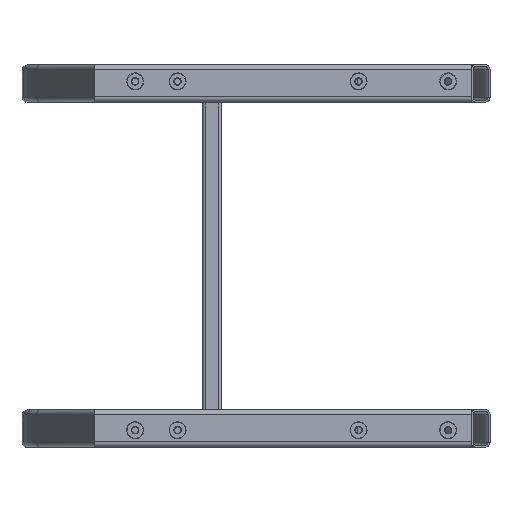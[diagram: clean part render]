
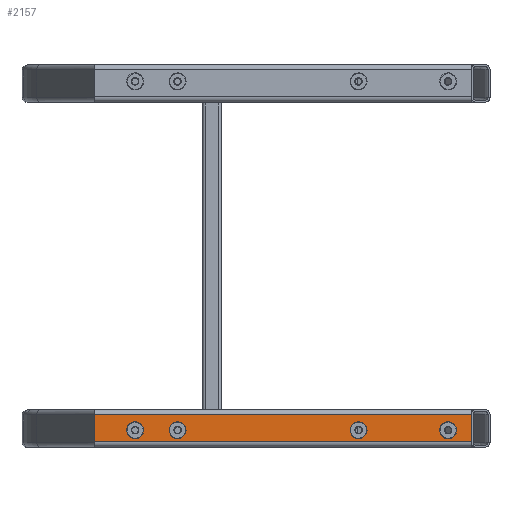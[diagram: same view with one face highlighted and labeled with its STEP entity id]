
A CAD part, top view. The second image highlights one B-rep face of the part: STEP entity #2157.
In plain terms, the highlighted planar face has unit normal (0, 0, 1).
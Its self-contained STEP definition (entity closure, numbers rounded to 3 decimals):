
#1976=CARTESIAN_POINT('Control Point',(927.324,196.,424.395)) ;
#1977=CARTESIAN_POINT('Control Point',(927.324,195.019,424.395)) ;
#1978=CARTESIAN_POINT('Control Point',(927.517,194.037,424.395)) ;
#1979=CARTESIAN_POINT('Control Point',(927.902,193.106,424.395)) ;
#1980=CARTESIAN_POINT('Control Point',(929.018,191.445,424.395)) ;
#1981=CARTESIAN_POINT('Control Point',(930.679,190.329,424.395)) ;
#1982=CARTESIAN_POINT('Control Point',(931.61,189.943,424.395)) ;
#1983=CARTESIAN_POINT('Control Point',(933.574,189.558,424.395)) ;
#1984=CARTESIAN_POINT('Control Point',(935.537,189.943,424.395)) ;
#1985=CARTESIAN_POINT('Control Point',(936.469,190.329,424.395)) ;
#1986=CARTESIAN_POINT('Control Point',(938.13,191.445,424.395)) ;
#1987=CARTESIAN_POINT('Control Point',(939.245,193.106,424.395)) ;
#1988=CARTESIAN_POINT('Control Point',(939.631,194.037,424.395)) ;
#1989=CARTESIAN_POINT('Control Point',(939.824,195.019,424.395)) ;
#1990=CARTESIAN_POINT('Control Point',(939.824,196.,424.395)) ;
#1991=CARTESIAN_POINT('Vertex',(927.324,196.,424.395)) ;
#1993=CARTESIAN_POINT('Vertex',(939.824,196.,424.395)) ;
#2034=CARTESIAN_POINT('Axis2P3D Location',(845.,198.,424.395)) ;
#2039=CARTESIAN_POINT('Line Origine',(1045.,212.5,424.395)) ;
#2043=CARTESIAN_POINT('Vertex',(1245.,212.5,424.395)) ;
#2045=CARTESIAN_POINT('Vertex',(845.,212.5,424.395)) ;
#2048=CARTESIAN_POINT('Line Origine',(845.,198.,424.395)) ;
#2052=CARTESIAN_POINT('Vertex',(845.,183.5,424.395)) ;
#2055=CARTESIAN_POINT('Line Origine',(1045.,183.5,424.395)) ;
#2059=CARTESIAN_POINT('Vertex',(1245.,183.5,424.395)) ;
#2062=CARTESIAN_POINT('Line Origine',(1245.,198.,424.395)) ;
#2073=CARTESIAN_POINT('Axis2P3D Location',(888.574,196.,424.395)) ;
#2077=CARTESIAN_POINT('Vertex',(882.324,195.99,424.395)) ;
#2079=CARTESIAN_POINT('Vertex',(894.824,196.01,424.395)) ;
#2082=CARTESIAN_POINT('Axis2P3D Location',(888.574,196.,424.395)) ;
#2091=CARTESIAN_POINT('Axis2P3D Location',(1125.574,196.,424.395)) ;
#2095=CARTESIAN_POINT('Vertex',(1119.324,196.,424.395)) ;
#2097=CARTESIAN_POINT('Vertex',(1131.824,196.,424.395)) ;
#2100=CARTESIAN_POINT('Axis2P3D Location',(1125.574,196.,424.395)) ;
#2109=CARTESIAN_POINT('Axis2P3D Location',(1220.574,196.,424.395)) ;
#2113=CARTESIAN_POINT('Vertex',(1214.324,195.99,424.395)) ;
#2115=CARTESIAN_POINT('Vertex',(1226.824,196.01,424.395)) ;
#2118=CARTESIAN_POINT('Axis2P3D Location',(1220.574,196.,424.395)) ;
#2128=CARTESIAN_POINT('Control Point',(939.824,196.,424.395)) ;
#2129=CARTESIAN_POINT('Control Point',(939.824,196.613,424.395)) ;
#2130=CARTESIAN_POINT('Control Point',(939.749,197.225,424.395)) ;
#2131=CARTESIAN_POINT('Control Point',(939.599,197.825,424.395)) ;
#2132=CARTESIAN_POINT('Control Point',(939.155,198.976,424.395)) ;
#2133=CARTESIAN_POINT('Control Point',(938.446,199.986,424.395)) ;
#2134=CARTESIAN_POINT('Control Point',(938.032,200.445,424.395)) ;
#2135=CARTESIAN_POINT('Control Point',(937.098,201.252,424.395)) ;
#2136=CARTESIAN_POINT('Control Point',(935.998,201.81,424.395)) ;
#2137=CARTESIAN_POINT('Control Point',(935.416,202.02,424.395)) ;
#2138=CARTESIAN_POINT('Control Point',(934.212,202.293,424.395)) ;
#2139=CARTESIAN_POINT('Control Point',(932.979,202.267,424.395)) ;
#2140=CARTESIAN_POINT('Control Point',(932.367,202.179,424.395)) ;
#2141=CARTESIAN_POINT('Control Point',(931.176,201.853,424.395)) ;
#2142=CARTESIAN_POINT('Control Point',(930.1,201.25,424.395)) ;
#2143=CARTESIAN_POINT('Control Point',(929.602,200.884,424.395)) ;
#2144=CARTESIAN_POINT('Control Point',(928.704,200.037,424.395)) ;
#2145=CARTESIAN_POINT('Control Point',(928.038,198.998,424.395)) ;
#2146=CARTESIAN_POINT('Control Point',(927.771,198.441,424.395)) ;
#2147=CARTESIAN_POINT('Control Point',(927.493,197.614,424.395)) ;
#2148=CARTESIAN_POINT('Control Point',(927.362,196.758,424.395)) ;
#2149=CARTESIAN_POINT('Control Point',(927.337,196.506,424.395)) ;
#2150=CARTESIAN_POINT('Control Point',(927.324,196.253,424.395)) ;
#2151=CARTESIAN_POINT('Control Point',(927.324,196.,424.395)) ;
#2035=DIRECTION('Axis2P3D Direction',(-0.,0.,1.)) ;
#2036=DIRECTION('Axis2P3D XDirection',(1.,0.,0.)) ;
#2040=DIRECTION('Vector Direction',(1.,0.,0.)) ;
#2049=DIRECTION('Vector Direction',(0.,1.,0.)) ;
#2056=DIRECTION('Vector Direction',(1.,0.,0.)) ;
#2063=DIRECTION('Vector Direction',(0.,-1.,0.)) ;
#2074=DIRECTION('Axis2P3D Direction',(-0.,0.,1.)) ;
#2083=DIRECTION('Axis2P3D Direction',(-0.,0.,1.)) ;
#2092=DIRECTION('Axis2P3D Direction',(-0.,0.,1.)) ;
#2101=DIRECTION('Axis2P3D Direction',(-0.,0.,1.)) ;
#2110=DIRECTION('Axis2P3D Direction',(-0.,0.,1.)) ;
#2119=DIRECTION('Axis2P3D Direction',(-0.,0.,1.)) ;
#2037=AXIS2_PLACEMENT_3D('Plane Axis2P3D',#2034,#2035,#2036) ;
#2075=AXIS2_PLACEMENT_3D('Circle Axis2P3D',#2073,#2074,$) ;
#2084=AXIS2_PLACEMENT_3D('Circle Axis2P3D',#2082,#2083,$) ;
#2093=AXIS2_PLACEMENT_3D('Circle Axis2P3D',#2091,#2092,$) ;
#2102=AXIS2_PLACEMENT_3D('Circle Axis2P3D',#2100,#2101,$) ;
#2111=AXIS2_PLACEMENT_3D('Circle Axis2P3D',#2109,#2110,$) ;
#2120=AXIS2_PLACEMENT_3D('Circle Axis2P3D',#2118,#2119,$) ;
#2068=ORIENTED_EDGE('',*,*,#2047,.T.) ;
#2069=ORIENTED_EDGE('',*,*,#2054,.F.) ;
#2070=ORIENTED_EDGE('',*,*,#2061,.F.) ;
#2071=ORIENTED_EDGE('',*,*,#2066,.F.) ;
#2088=ORIENTED_EDGE('',*,*,#2081,.F.) ;
#2089=ORIENTED_EDGE('',*,*,#2086,.F.) ;
#2106=ORIENTED_EDGE('',*,*,#2099,.F.) ;
#2107=ORIENTED_EDGE('',*,*,#2104,.F.) ;
#2124=ORIENTED_EDGE('',*,*,#2117,.F.) ;
#2125=ORIENTED_EDGE('',*,*,#2122,.F.) ;
#2154=ORIENTED_EDGE('',*,*,#1995,.F.) ;
#2155=ORIENTED_EDGE('',*,*,#2152,.F.) ;
#2090=FACE_BOUND('',#2087,.T.) ;
#2108=FACE_BOUND('',#2105,.T.) ;
#2126=FACE_BOUND('',#2123,.T.) ;
#2156=FACE_BOUND('',#2153,.T.) ;
#2041=VECTOR('Line Direction',#2040,1.) ;
#2050=VECTOR('Line Direction',#2049,1.) ;
#2057=VECTOR('Line Direction',#2056,1.) ;
#2064=VECTOR('Line Direction',#2063,1.) ;
#2157=ADVANCED_FACE('\X2\51E04F554F53\X0\.61',(#2072,#2090,#2108,#2126,#2156),#2038,.T.) ;
#1975=B_SPLINE_CURVE_WITH_KNOTS('',5,(#1976,#1977,#1978,#1979,#1980,#1981,#1982,#1983,#1984,#1985,#1986,#1987,#1988,#1989,#1990),.UNSPECIFIED.,.F.,.U.,(6,3,3,3,6),(-9.817,-4.909,0.,4.909,9.817),.UNSPECIFIED.) ;
#2127=B_SPLINE_CURVE_WITH_KNOTS('',5,(#2128,#2129,#2130,#2131,#2132,#2133,#2134,#2135,#2136,#2137,#2138,#2139,#2140,#2141,#2142,#2143,#2144,#2145,#2146,#2147,#2148,#2149,#2150,#2151),.UNSPECIFIED.,.F.,.U.,(6,3,3,3,3,3,3,6),(0.,4.358,8.716,13.074,17.433,21.791,26.149,27.947),.UNSPECIFIED.) ;
#2076=CIRCLE('generated circle',#2075,6.25) ;
#2085=CIRCLE('generated circle',#2084,6.25) ;
#2094=CIRCLE('generated circle',#2093,6.25) ;
#2103=CIRCLE('generated circle',#2102,6.25) ;
#2112=CIRCLE('generated circle',#2111,6.25) ;
#2121=CIRCLE('generated circle',#2120,6.25) ;
#1995=EDGE_CURVE('',#1992,#1994,#1975,.T.) ;
#2047=EDGE_CURVE('',#2044,#2046,#2042,.F.) ;
#2054=EDGE_CURVE('',#2053,#2046,#2051,.T.) ;
#2061=EDGE_CURVE('',#2060,#2053,#2058,.F.) ;
#2066=EDGE_CURVE('',#2044,#2060,#2065,.T.) ;
#2081=EDGE_CURVE('',#2078,#2080,#2076,.T.) ;
#2086=EDGE_CURVE('',#2080,#2078,#2085,.T.) ;
#2099=EDGE_CURVE('',#2096,#2098,#2094,.T.) ;
#2104=EDGE_CURVE('',#2098,#2096,#2103,.T.) ;
#2117=EDGE_CURVE('',#2114,#2116,#2112,.T.) ;
#2122=EDGE_CURVE('',#2116,#2114,#2121,.T.) ;
#2152=EDGE_CURVE('',#1994,#1992,#2127,.T.) ;
#2067=EDGE_LOOP('',(#2068,#2069,#2070,#2071)) ;
#2087=EDGE_LOOP('',(#2088,#2089)) ;
#2105=EDGE_LOOP('',(#2106,#2107)) ;
#2123=EDGE_LOOP('',(#2124,#2125)) ;
#2153=EDGE_LOOP('',(#2154,#2155)) ;
#2072=FACE_OUTER_BOUND('',#2067,.T.) ;
#2042=LINE('Line',#2039,#2041) ;
#2051=LINE('Line',#2048,#2050) ;
#2058=LINE('Line',#2055,#2057) ;
#2065=LINE('Line',#2062,#2064) ;
#2038=PLANE('Plane',#2037) ;
#1992=VERTEX_POINT('',#1991) ;
#1994=VERTEX_POINT('',#1993) ;
#2044=VERTEX_POINT('',#2043) ;
#2046=VERTEX_POINT('',#2045) ;
#2053=VERTEX_POINT('',#2052) ;
#2060=VERTEX_POINT('',#2059) ;
#2078=VERTEX_POINT('',#2077) ;
#2080=VERTEX_POINT('',#2079) ;
#2096=VERTEX_POINT('',#2095) ;
#2098=VERTEX_POINT('',#2097) ;
#2114=VERTEX_POINT('',#2113) ;
#2116=VERTEX_POINT('',#2115) ;
